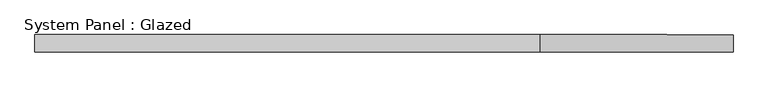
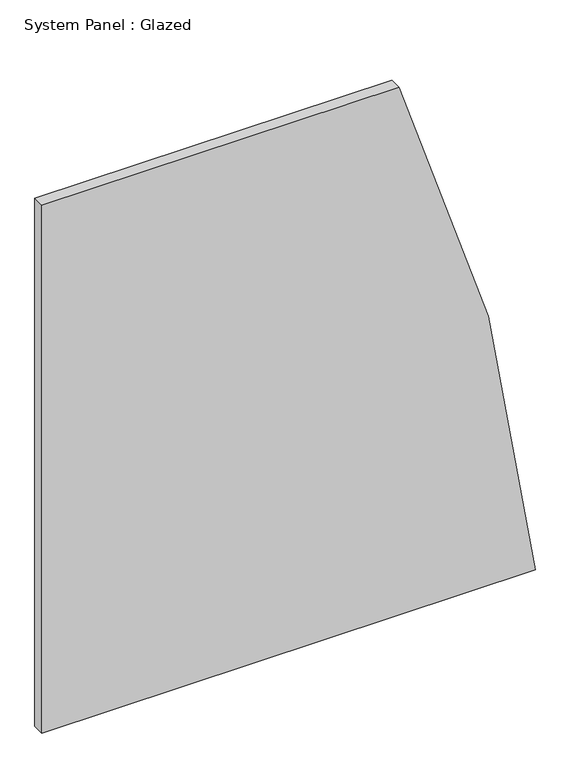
"""IFC4 building model written with IfcOpenShell, lengths in millimetres: plate geometry, System Panel : Glazed."""

import ifcopenshell
import ifcopenshell.guid

model = None  # the IFC model being written
_history = None  # IfcOwnerHistory: only IFC2X3 demands one
_inside = {}  # id of a spatial element -> (the spatial element, [elements in it])
_under = {}  # id of a project, library or spatial element -> (it, [spatial elements below it])
_declared = {}  # id of a project -> (the project, [libraries it declares])
_typed = {}  # id of a type object -> (the type object, [elements of that type])
_made_of = {}  # id of a material, layer set ... -> (it, [elements and type objects made of it])


def new_model(schema):
    """Start an empty IFC model of exactly this schema.

    Asked for "IFC4X3", IfcOpenShell would pick the latest addendum, in which some entities
    have other attributes; the version numbers below select the first issue.
    IFC2X3 requires an IfcOwnerHistory on every rooted entity: one is made here for all.
    """
    global model, _history
    if schema == "IFC4X3":
        model = ifcopenshell.file(schema_version=(4, 3, 0, 0))
    else:
        model = ifcopenshell.file(schema=schema)
    _inside.clear()
    _under.clear()
    _declared.clear()
    _typed.clear()
    _made_of.clear()
    _history = None
    if model.schema == "IFC2X3":
        org = make("IfcOrganization", Name="unknown")
        user = make(
            "IfcPersonAndOrganization",
            ThePerson=make("IfcPerson", FamilyName="unknown"),
            TheOrganization=org,
        )
        app = make(
            "IfcApplication",
            ApplicationDeveloper=org,
            Version="unknown",
            ApplicationFullName="unknown",
            ApplicationIdentifier="unknown",
        )
        _history = make(
            "IfcOwnerHistory",
            OwningUser=user,
            OwningApplication=app,
            ChangeAction="ADDED",
            CreationDate=0,
        )
    return model


def make(cls, **values):
    """One entity of the class cls with the attributes given. An attribute that is None is left unset."""
    return model.create_entity(
        cls, **{name: value for name, value in values.items() if value is not None}
    )


def rooted(cls, **values):
    """An entity with a GlobalId (a new one), such as an element, a storey or a relation."""
    return make(cls, GlobalId=ifcopenshell.guid.new(), OwnerHistory=_history, **values)


def si_unit(unit_type, name, prefix=None):
    """IfcSIUnit, for example si_unit("LENGTHUNIT", "METRE", prefix="MILLI")."""
    return make("IfcSIUnit", UnitType=unit_type, Prefix=prefix, Name=name)


def assignment(units):
    """IfcUnitAssignment: the units of a project."""
    return None if units is None else make("IfcUnitAssignment", Units=units)


def point(xyz):
    """IfcCartesianPoint."""
    return None if xyz is None else make("IfcCartesianPoint", Coordinates=xyz)


def direction(xyz):
    """IfcDirection."""
    return None if xyz is None else make("IfcDirection", DirectionRatios=xyz)


def frame(location, z_axis=None, x_axis=None):
    """IfcAxis2Placement3D, a coordinate frame: its origin and axes. An axis left out is left unset."""
    return make(
        "IfcAxis2Placement3D",
        Location=point(location),
        Axis=direction(z_axis),
        RefDirection=direction(x_axis),
    )


def frame_2d(location, x_axis=None):
    """IfcAxis2Placement2D, a coordinate frame in the plane: its origin and x axis."""
    return make(
        "IfcAxis2Placement2D", Location=point(location), RefDirection=direction(x_axis)
    )


def origin():
    """The frame at (0, 0, 0) with its axes left unset."""
    return frame((0.0, 0.0, 0.0))


def place(relative_to, where):
    """IfcLocalPlacement: puts the frame where relative to a parent placement (None: the world)."""
    return make(
        "IfcLocalPlacement", PlacementRelTo=relative_to, RelativePlacement=where
    )


def context(
    kind, dimensions, precision=None, world=None, true_north=None, identifier=None
):
    """IfcGeometricRepresentationContext, for example the 3D "Model" context."""
    return make(
        "IfcGeometricRepresentationContext",
        ContextIdentifier=identifier,
        ContextType=kind,
        CoordinateSpaceDimension=dimensions,
        Precision=precision,
        WorldCoordinateSystem=world,
        TrueNorth=true_north,
    )


def project(units=None, contexts=None):
    """IfcProject with its units and contexts."""
    return rooted(
        "IfcProject",
        Name="project",
        RepresentationContexts=contexts,
        UnitsInContext=assignment(units),
    )


def spatial(cls, under=None, at=None, **own):
    """A site, building, storey or space (cls), placed at a placement, below another one or the project."""
    s = rooted(cls, ObjectPlacement=at, **own)
    if under is not None:
        _under.setdefault(under.id(), (under, []))[1].append(s)
    return s


def polyline(points):
    """IfcPolyline through the points."""
    return make("IfcPolyline", Points=[point(p) for p in points])


def circle_curve(where, radius):
    """IfcCircle in the frame where."""
    return make("IfcCircle", Position=where, Radius=radius)


def trimmed(basis, trim1, trim2, sense, master):
    """IfcTrimmedCurve: the piece of a basis curve between two trims."""
    return make(
        "IfcTrimmedCurve",
        BasisCurve=basis,
        Trim1=trim1,
        Trim2=trim2,
        SenseAgreement=sense,
        MasterRepresentation=master,
    )


def segment(curve, same_sense, transition):
    """IfcCompositeCurveSegment."""
    return make(
        "IfcCompositeCurveSegment",
        Transition=transition,
        SameSense=same_sense,
        ParentCurve=curve,
    )


def composite_curve(segments, self_intersect=None):
    """IfcCompositeCurve: segments joined end to end."""
    return make("IfcCompositeCurve", Segments=segments, SelfIntersect=self_intersect)


def outline(outer, holes=None, kind="AREA"):
    """IfcArbitraryClosedProfileDef: a profile drawn as a closed curve; with holes, ...WithVoids."""
    if holes is None:
        return make("IfcArbitraryClosedProfileDef", ProfileType=kind, OuterCurve=outer)
    return make(
        "IfcArbitraryProfileDefWithVoids",
        ProfileType=kind,
        OuterCurve=outer,
        InnerCurves=holes,
    )


def extrude(swept, where, along, depth):
    """IfcExtrudedAreaSolid: the profile swept, set in the frame where, extruded along a direction by depth."""
    return make(
        "IfcExtrudedAreaSolid",
        SweptArea=swept,
        Position=where,
        ExtrudedDirection=direction(along),
        Depth=depth,
    )


def shape(context_of_items, identifier, shape_type, items):
    """IfcShapeRepresentation: the items that make up one representation, for example the "Body"."""
    return make(
        "IfcShapeRepresentation",
        ContextOfItems=context_of_items,
        RepresentationIdentifier=identifier,
        RepresentationType=shape_type,
        Items=items,
    )


def source(mapping_origin, context_of_items, identifier, shape_type, items):
    """IfcRepresentationMap: a shape defined once, which mapped items show again and again."""
    return make(
        "IfcRepresentationMap",
        MappingOrigin=mapping_origin,
        MappedRepresentation=shape(context_of_items, identifier, shape_type, items),
    )


def transform(
    local_origin,
    x_axis=None,
    y_axis=None,
    z_axis=None,
    scale=None,
    scale2=None,
    scale3=None,
    uniform=True,
):
    """IfcCartesianTransformationOperator3D, or its non-uniform kind. x_axis, y_axis, z_axis: its Axis1, 2, 3."""
    if uniform:
        return make(
            "IfcCartesianTransformationOperator3D",
            Axis1=direction(x_axis),
            Axis2=direction(y_axis),
            LocalOrigin=point(local_origin),
            Scale=scale,
            Axis3=direction(z_axis),
        )
    return make(
        "IfcCartesianTransformationOperator3DnonUniform",
        Axis1=direction(x_axis),
        Axis2=direction(y_axis),
        LocalOrigin=point(local_origin),
        Scale=scale,
        Axis3=direction(z_axis),
        Scale2=scale2,
        Scale3=scale3,
    )


def mapped(mapping_source, mapping_target):
    """IfcMappedItem: shows the shape of a source again, moved by a transform."""
    return make(
        "IfcMappedItem", MappingSource=mapping_source, MappingTarget=mapping_target
    )


def made_of(thing, what):
    """Note that an element or type object is made of a material, layer set ...; save() writes the relation."""
    if what is not None:
        _made_of.setdefault(what.id(), (what, []))[1].append(thing)
    return thing


def element(
    cls,
    number,
    at=None,
    inside=None,
    cuts=None,
    type_object=None,
    material=None,
    context=None,
    identifier="Body",
    shape_type=None,
    held_by="IfcProductDefinitionShape",
    body=None,
    shapes=None,
    **own,
):
    """One element of the class cls, such as IfcWall. Its Tag is "e" and its number.

    at: its placement. inside: the storey or other place that contains it. cuts: it is an
    opening in that element (IfcRelVoidsElement). A single representation is given by context,
    identifier, shape_type and body (its items); several are given by shapes. held_by: the class
    of the entity that holds the representations. save() writes the other relations.
    """
    e = rooted(cls, Tag="e%d" % number, ObjectPlacement=at, **own)
    if body is not None:
        shapes = [shape(context, identifier, shape_type, body)]
    if shapes is not None:
        e.Representation = make(held_by, Representations=shapes)
    if inside is not None:
        _inside.setdefault(inside.id(), (inside, []))[1].append(e)
    if cuts is not None:
        rooted(
            "IfcRelVoidsElement", RelatingBuildingElement=cuts, RelatedOpeningElement=e
        )
    if type_object is not None:
        _typed.setdefault(type_object.id(), (type_object, []))[1].append(e)
    return made_of(e, material)


def aggregate(whole, parts):
    """IfcRelAggregates: a whole, such as a stair, and the parts it consists of."""
    return rooted("IfcRelAggregates", RelatingObject=whole, RelatedObjects=parts)


def save(model, path):
    """Write the relations noted so far, then the file.

    IfcRelAggregates (storeys below a building ...), IfcRelContainedInSpatialStructure (elements
    in a storey), IfcRelDefinesByType, IfcRelAssociatesMaterial and IfcRelDeclares: one each for
    every whole, place, type object, material and project.
    """
    for whole, parts in _under.values():
        aggregate(whole, parts)
    for where, things in _inside.values():
        rooted(
            "IfcRelContainedInSpatialStructure",
            RelatedElements=things,
            RelatingStructure=where,
        )
    for kind, things in _typed.values():
        rooted("IfcRelDefinesByType", RelatedObjects=things, RelatingType=kind)
    for what, things in _made_of.values():
        rooted("IfcRelAssociatesMaterial", RelatedObjects=things, RelatingMaterial=what)
    for by, libraries in _declared.values():
        rooted("IfcRelDeclares", RelatingContext=by, RelatedDefinitions=libraries)
    model.write(path)


def system_panel_glazed_de491f5c(model_context):
    return source(origin(), model_context, "Body", "SweptSolid", [
        extrude(outline(composite_curve([segment(polyline([(0.0, -511.1558805), (0.0, 511.1558805)]), True, "CONTINUOUS"), segment(trimmed(circle_curve(frame_2d((-336.55, -3373.1915946)), 3898.9), [point((0.0, 511.1558805))], [point((1155.7, 228.8371598))], False, "CARTESIAN"), True, "CONTINUOUS"), segment(polyline([(1155.7, 228.8371598), (1155.7, -511.1558805), (0.0, -511.1558805)]), True, "CONTINUOUS")], self_intersect=False)), frame((0.0, -44.45, 0.0), z_axis=(0.0, 1.0, 0.0), x_axis=(0.0, 0.0, 1.0)), (0.0, 0.0, 1.0), 25.4),
    ])


if __name__ == "__main__":
    model = new_model("IFC4")
    model_context = context("Model", 3, world=origin())
    ifc_project = project(units=[si_unit("LENGTHUNIT", "METRE", prefix="MILLI")], contexts=[model_context])
    site = spatial("IfcSite", under=ifc_project)
    building = spatial("IfcBuilding", under=site)
    placement = place(None, origin())
    system_panel_glazed_shape = system_panel_glazed_de491f5c(model_context)
    element("IfcPlate", 1, ObjectType="System Panel : Glazed", at=placement, inside=building, context=model_context, shape_type="MappedRepresentation", body=[
        mapped(system_panel_glazed_shape, transform((0.0, 0.0, 0.0), x_axis=(1.0, 0.0, 0.0), y_axis=(0.0, 1.0, 0.0), z_axis=(0.0, 0.0, 1.0))),
    ])
    save(model, "model.ifc")
